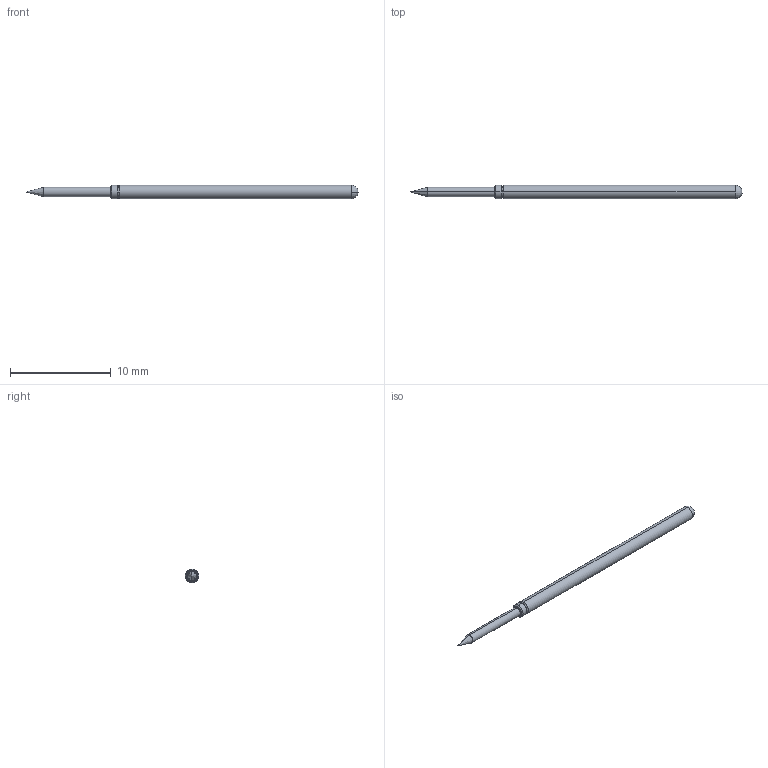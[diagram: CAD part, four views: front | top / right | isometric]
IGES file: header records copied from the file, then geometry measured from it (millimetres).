
Start section: SolidWorks IGES file using analytic representation for surfaces
Global section: file name: Z:\probe solid model mockups\Solidworks models\IGES Files\HCP-25 IGES files\HCP-25B.IGS; native system: SolidWorks 2006 by SolidWorks Corporation; preprocessor: SolidWorks 2006 by SolidWorks Corporation; author: tsakatani; date: 080102.152107; units: inch
Bounding box: 33.02 x 1.37 x 1.37 mm (x, y, z)
Surface area: 128.8 mm2 (no closed solid volume)
Topology: 0 solids, 0 shells, 20 faces, 124 edges, 122 vertices
Faces by surface type: revolution 14, bspline 6
